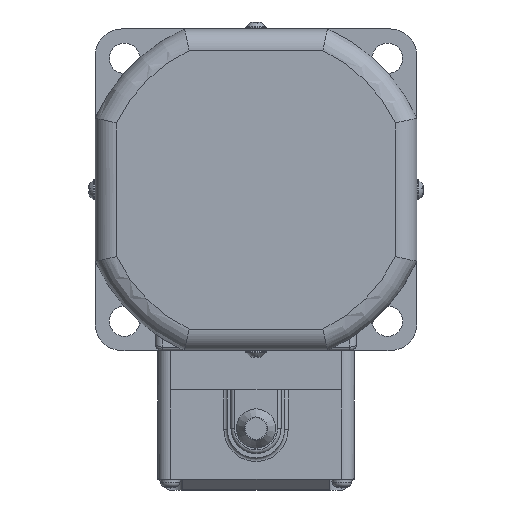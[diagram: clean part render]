
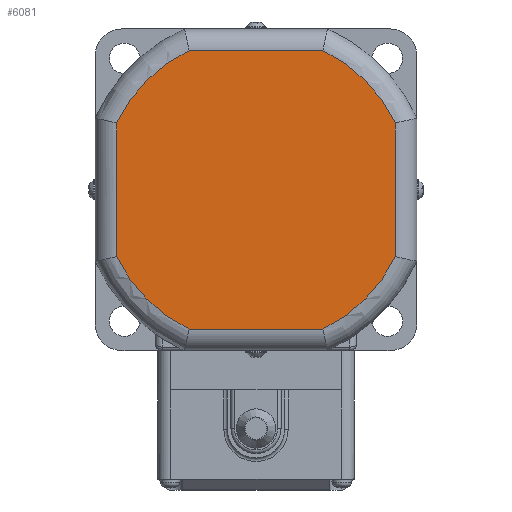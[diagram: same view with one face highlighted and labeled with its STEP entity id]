
A CAD part, left-side view. The second image highlights one B-rep face of the part: STEP entity #6081.
In plain terms, the highlighted planar face has unit normal (-1, 0, 0).
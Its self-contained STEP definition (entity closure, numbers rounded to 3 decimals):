
#506=CIRCLE('',#6638,43.25);
#507=CIRCLE('',#6639,43.25);
#508=CIRCLE('',#6640,43.25);
#509=CIRCLE('',#6641,43.25);
#983=FACE_OUTER_BOUND('',#1363,.T.);
#1363=EDGE_LOOP('',(#4956,#4957,#4958,#4959,#4960,#4961,#4962,#4963));
#1798=LINE('',#11152,#2185);
#1799=LINE('',#11156,#2186);
#1800=LINE('',#11160,#2187);
#1801=LINE('',#11164,#2188);
#2185=VECTOR('',#7980,37.393);
#2186=VECTOR('',#7983,37.393);
#2187=VECTOR('',#7986,37.393);
#2188=VECTOR('',#7989,37.393);
#2716=VERTEX_POINT('',#11150);
#2717=VERTEX_POINT('',#11151);
#2718=VERTEX_POINT('',#11153);
#2719=VERTEX_POINT('',#11155);
#2720=VERTEX_POINT('',#11157);
#2721=VERTEX_POINT('',#11159);
#2722=VERTEX_POINT('',#11161);
#2723=VERTEX_POINT('',#11163);
#3501=EDGE_CURVE('',#2716,#2717,#1798,.T.);
#3502=EDGE_CURVE('',#2718,#2716,#506,.T.);
#3503=EDGE_CURVE('',#2719,#2718,#1799,.T.);
#3504=EDGE_CURVE('',#2720,#2719,#507,.T.);
#3505=EDGE_CURVE('',#2721,#2720,#1800,.T.);
#3506=EDGE_CURVE('',#2722,#2721,#508,.T.);
#3507=EDGE_CURVE('',#2723,#2722,#1801,.T.);
#3508=EDGE_CURVE('',#2717,#2723,#509,.T.);
#4956=ORIENTED_EDGE('',*,*,#3501,.F.);
#4957=ORIENTED_EDGE('',*,*,#3502,.F.);
#4958=ORIENTED_EDGE('',*,*,#3503,.F.);
#4959=ORIENTED_EDGE('',*,*,#3504,.F.);
#4960=ORIENTED_EDGE('',*,*,#3505,.F.);
#4961=ORIENTED_EDGE('',*,*,#3506,.F.);
#4962=ORIENTED_EDGE('',*,*,#3507,.F.);
#4963=ORIENTED_EDGE('',*,*,#3508,.F.);
#5533=PLANE('',#6637);
#6081=ADVANCED_FACE('',(#983),#5533,.F.);
#6637=AXIS2_PLACEMENT_3D('',#11149,#7978,#7979);
#6638=AXIS2_PLACEMENT_3D('',#11154,#7981,#7982);
#6639=AXIS2_PLACEMENT_3D('',#11158,#7984,#7985);
#6640=AXIS2_PLACEMENT_3D('',#11162,#7987,#7988);
#6641=AXIS2_PLACEMENT_3D('',#11165,#7990,#7991);
#7978=DIRECTION('center_axis',(1.,0.,0.));
#7979=DIRECTION('ref_axis',(0.,0.,-1.));
#7980=DIRECTION('',(0.,0.,1.));
#7981=DIRECTION('center_axis',(1.,0.,0.));
#7982=DIRECTION('ref_axis',(0.,0.707,-0.707));
#7983=DIRECTION('',(0.,1.,0.));
#7984=DIRECTION('center_axis',(1.,0.,0.));
#7985=DIRECTION('ref_axis',(0.,-0.707,-0.707));
#7986=DIRECTION('',(0.,0.,-1.));
#7987=DIRECTION('center_axis',(1.,0.,0.));
#7988=DIRECTION('ref_axis',(0.,-0.707,0.707));
#7989=DIRECTION('',(0.,-1.,0.));
#7990=DIRECTION('center_axis',(1.,0.,0.));
#7991=DIRECTION('ref_axis',(0.,0.707,0.707));
#11149=CARTESIAN_POINT('Origin',(-17.8,0.,
0.));
#11150=CARTESIAN_POINT('',(-17.8,39.,-18.697));
#11151=CARTESIAN_POINT('',(-17.8,39.,18.697));
#11152=CARTESIAN_POINT('',(-17.8,39.,-18.697));
#11153=CARTESIAN_POINT('',(-17.8,18.697,-39.));
#11154=CARTESIAN_POINT('Origin',(-17.8,0.,
0.));
#11155=CARTESIAN_POINT('',(-17.8,-18.697,-39.));
#11156=CARTESIAN_POINT('',(-17.8,-18.697,-39.));
#11157=CARTESIAN_POINT('',(-17.8,-39.,-18.697));
#11158=CARTESIAN_POINT('Origin',(-17.8,0.,
0.));
#11159=CARTESIAN_POINT('',(-17.8,-39.,18.697));
#11160=CARTESIAN_POINT('',(-17.8,-39.,18.697));
#11161=CARTESIAN_POINT('',(-17.8,-18.697,39.));
#11162=CARTESIAN_POINT('Origin',(-17.8,0.,
0.));
#11163=CARTESIAN_POINT('',(-17.8,18.697,39.));
#11164=CARTESIAN_POINT('',(-17.8,18.697,39.));
#11165=CARTESIAN_POINT('Origin',(-17.8,0.,
0.));
